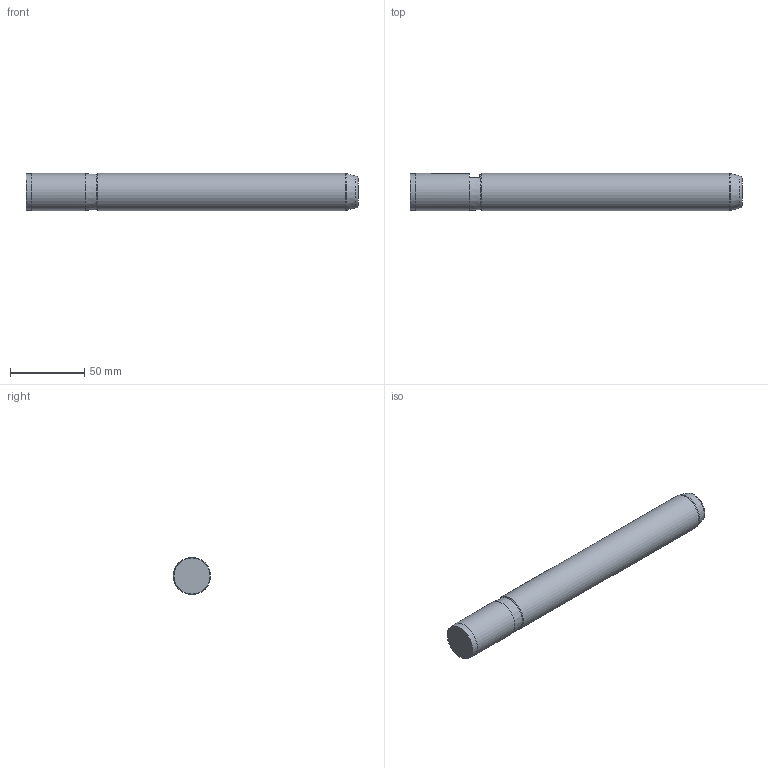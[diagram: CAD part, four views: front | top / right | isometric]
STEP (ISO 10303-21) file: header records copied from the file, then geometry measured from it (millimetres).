
FILE_DESCRIPTION(/* description */ ('Impex Ready, www.impex-ready.pl'),/* implementation_level */ '2;1');
FILE_NAME(/* name */ 'C:\Users\VIKKY\Nextcloud\SM\projekt 10 - części na stronę internetową\Pliki_3D_new\266 Słupy VW\266_Słupy_VW_STEP\VW25224.ipt.step',/* time_stamp */ '2022-01-18T10:01:24+01:00',/* author */ ('SM'),/* organization */ (''),/* preprocessor_version */ 'ST-DEVELOPER v18.1',/* originating_system */ 'Autodesk Inventor 2021',/* authorisation */ '');
FILE_SCHEMA (('AUTOMOTIVE_DESIGN { 1 0 10303 214 3 1 1 }'));
Length unit declared in the file: millimetre
Products named in the file (1): VW25224
Bounding box: 224 x 25 x 25 mm (x, y, z)
Volume: 108863.4 mm3; surface area: 18386.6 mm2
Topology: 1 solids, 1 shells, 13 faces, 29 edges, 18 vertices
Faces by surface type: plane 5, cone 4, cylinder 2, torus 2
Full cylindrical faces by diameter (mm): 25 x2
Entity records: 449 total; most frequent: DIRECTION 74, CARTESIAN_POINT 65, ORIENTED_EDGE 58, AXIS2_PLACEMENT_3D 33, EDGE_CURVE 29, CIRCLE 19, VERTEX_POINT 18, STYLED_ITEM 14
